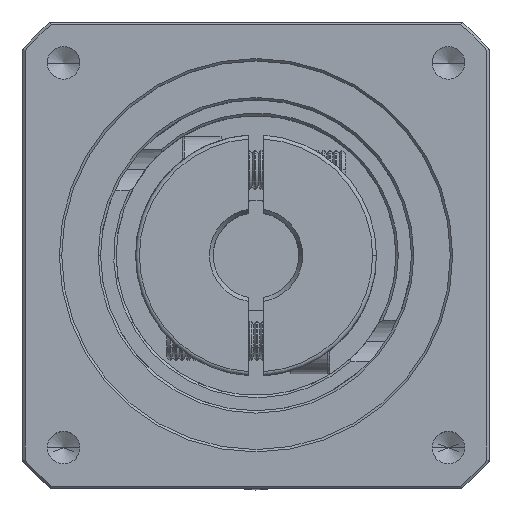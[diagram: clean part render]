
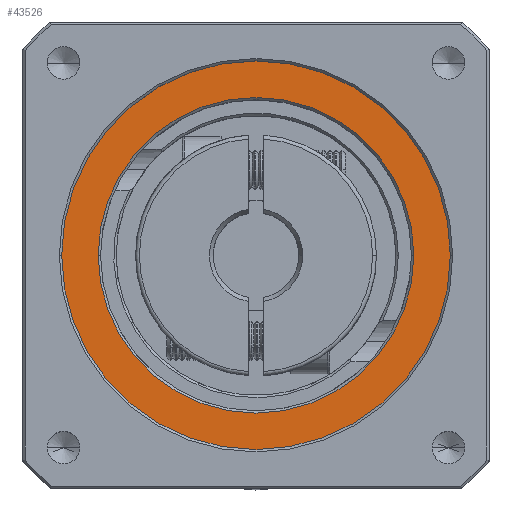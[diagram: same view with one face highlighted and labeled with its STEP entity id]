
A CAD part, top view. The second image highlights one B-rep face of the part: STEP entity #43526.
In plain terms, the highlighted planar face has unit normal (0, 0, 1).
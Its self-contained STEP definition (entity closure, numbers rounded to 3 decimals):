
#2924 = DIRECTION ( 'NONE',  ( 1., 0., 0. ) ) ;
#3238 = FACE_BOUND ( 'NONE', #79548, .T. ) ;
#7460 = ORIENTED_EDGE ( 'NONE', *, *, #35179, .T. ) ;
#8452 = CARTESIAN_POINT ( 'NONE',  ( -70.553, 17.545, 33.731 ) ) ;
#8508 = VERTEX_POINT ( 'NONE', #18801 ) ;
#12221 = DIRECTION ( 'NONE',  ( 0., 0., -1. ) ) ;
#16055 = DIRECTION ( 'NONE',  ( 1., 0., 0. ) ) ;
#18801 = CARTESIAN_POINT ( 'NONE',  ( -90.853, 17.545, 33.731 ) ) ;
#19575 = AXIS2_PLACEMENT_3D ( 'NONE', #85089, #40088, #92671 ) ;
#21744 = EDGE_LOOP ( 'NONE', ( #36435, #7460 ) ) ;
#22939 = CIRCLE ( 'NONE', #61095, 20.3 ) ;
#23159 = DIRECTION ( 'NONE',  ( 0., 0., 1. ) ) ;
#29610 = CARTESIAN_POINT ( 'NONE',  ( -95.553, 17.545, 33.731 ) ) ;
#35179 = EDGE_CURVE ( 'NONE', #87237, #74353, #37246, .T. ) ;
#36435 = ORIENTED_EDGE ( 'NONE', *, *, #95496, .T. ) ;
#37127 = ORIENTED_EDGE ( 'NONE', *, *, #94265, .T. ) ;
#37246 = CIRCLE ( 'NONE', #52502, 25. ) ;
#37767 = PLANE ( 'NONE',  #88374 ) ;
#40088 = DIRECTION ( 'NONE',  ( 0., 0., 1. ) ) ;
#40905 = FACE_OUTER_BOUND ( 'NONE', #21744, .T. ) ;
#41362 = EDGE_CURVE ( 'NONE', #8508, #43830, #22939, .T. ) ;
#41601 = CARTESIAN_POINT ( 'NONE',  ( -45.553, 17.545, 33.731 ) ) ;
#43526 = ADVANCED_FACE ( 'NONE', ( #3238, #40905 ), #37767, .T. ) ;
#43830 = VERTEX_POINT ( 'NONE', #48200 ) ;
#47949 = DIRECTION ( 'NONE',  ( 0., 0., -1. ) ) ;
#48200 = CARTESIAN_POINT ( 'NONE',  ( -50.253, 17.545, 33.731 ) ) ;
#52502 = AXIS2_PLACEMENT_3D ( 'NONE', #68160, #23159, #75694 ) ;
#52578 = CIRCLE ( 'NONE', #74848, 20.3 ) ;
#57331 = CARTESIAN_POINT ( 'NONE',  ( -70.553, 17.545, 33.731 ) ) ;
#61095 = AXIS2_PLACEMENT_3D ( 'NONE', #92987, #47949, #2924 ) ;
#61120 = DIRECTION ( 'NONE',  ( 0., 0., 1. ) ) ;
#64878 = DIRECTION ( 'NONE',  ( 1., 0., 0. ) ) ;
#68160 = CARTESIAN_POINT ( 'NONE',  ( -70.553, 17.545, 33.731 ) ) ;
#74353 = VERTEX_POINT ( 'NONE', #41601 ) ;
#74848 = AXIS2_PLACEMENT_3D ( 'NONE', #57331, #12221, #64878 ) ;
#75694 = DIRECTION ( 'NONE',  ( 1., 0., 0. ) ) ;
#76987 = CIRCLE ( 'NONE', #19575, 25. ) ;
#79548 = EDGE_LOOP ( 'NONE', ( #37127, #93912 ) ) ;
#85089 = CARTESIAN_POINT ( 'NONE',  ( -70.553, 17.545, 33.731 ) ) ;
#87237 = VERTEX_POINT ( 'NONE', #29610 ) ;
#88374 = AXIS2_PLACEMENT_3D ( 'NONE', #8452, #61120, #16055 ) ;
#92671 = DIRECTION ( 'NONE',  ( 1., 0., 0. ) ) ;
#92987 = CARTESIAN_POINT ( 'NONE',  ( -70.553, 17.545, 33.731 ) ) ;
#93912 = ORIENTED_EDGE ( 'NONE', *, *, #41362, .T. ) ;
#94265 = EDGE_CURVE ( 'NONE', #43830, #8508, #52578, .T. ) ;
#95496 = EDGE_CURVE ( 'NONE', #74353, #87237, #76987, .T. ) ;
